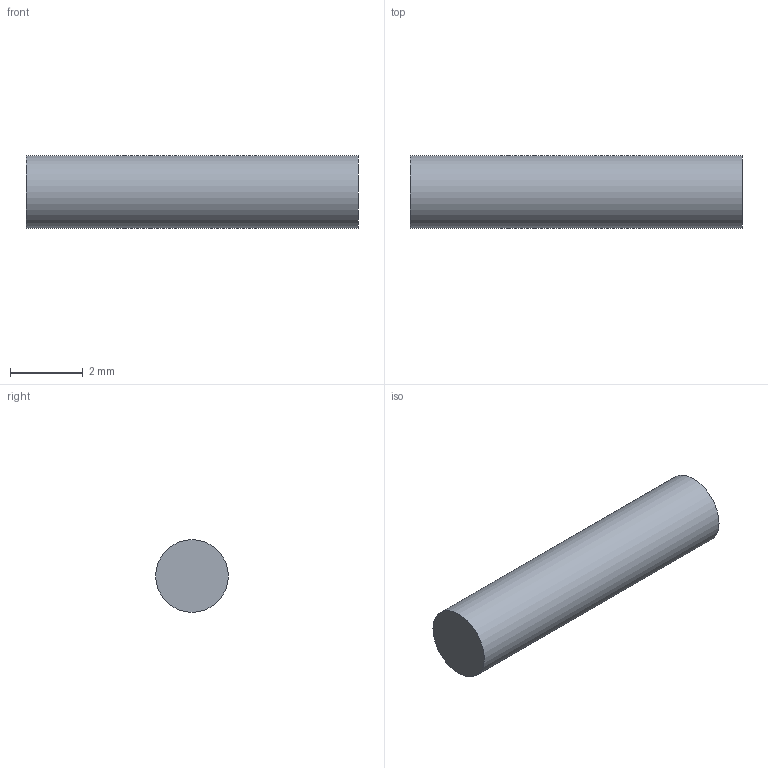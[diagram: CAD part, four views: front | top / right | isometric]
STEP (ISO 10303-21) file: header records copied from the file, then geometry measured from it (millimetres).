
FILE_DESCRIPTION(('Open CASCADE Model'),'2;1');
FILE_NAME('Open CASCADE Shape Model','2026-09-06T11:34:45',('Author'),( 'Open CASCADE'),'Open CASCADE STEP processor 7.7','Open CASCADE 7.7' ,'Unknown');
FILE_SCHEMA(('AUTOMOTIVE_DESIGN { 1 0 10303 214 1 1 1 1 }'));
Length unit declared in the file: millimetre
Products named in the file (1): Open CASCADE STEP translator 7.7 6
Bounding box: 9.15 x 2 x 2 mm (x, y, z)
Volume: 28.7 mm3; surface area: 63.8 mm2
Topology: 1 solids, 1 shells, 3 faces, 3 edges, 2 vertices
Faces by surface type: plane 2, cylinder 1
Full cylindrical faces by diameter (mm): 2 x1
Entity records: 114 total; most frequent: CARTESIAN_POINT 27, DIRECTION 17, AXIS2_PLACEMENT_3D 6, ORIENTED_EDGE 6, PCURVE 6, DEFINITIONAL_REPRESENTATION 6, LINE 5, VECTOR 5
